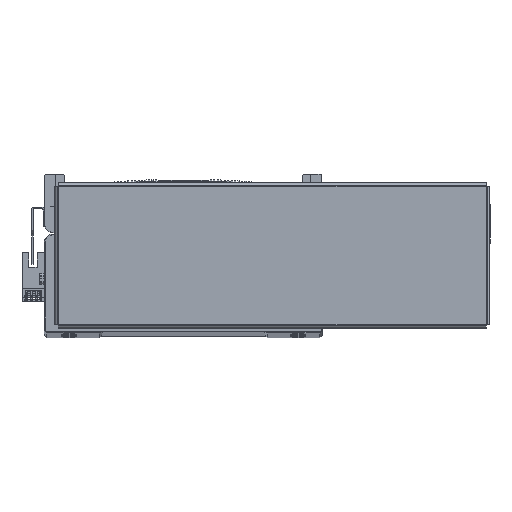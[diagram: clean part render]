
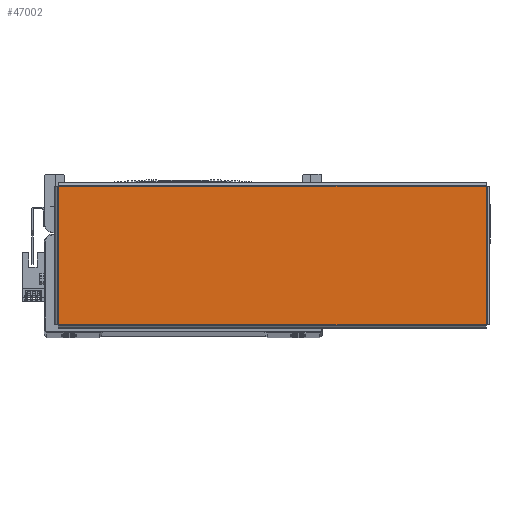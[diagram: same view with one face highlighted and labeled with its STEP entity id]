
A CAD part, top view. The second image highlights one B-rep face of the part: STEP entity #47002.
In plain terms, the highlighted planar face has unit normal (0, 0, 1) as drawn and (0, -1, 0) by its records, which use the part's own axes.
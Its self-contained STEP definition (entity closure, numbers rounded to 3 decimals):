
#2056 = EDGE_CURVE ( 'NONE', #42858, #42877, #17238, .T. ) ;
#2141 = EDGE_CURVE ( 'NONE', #42877, #42893, #17288, .T. ) ;
#2172 = EDGE_CURVE ( 'NONE', #42893, #42817, #17335, .T. ) ;
#2229 = EDGE_CURVE ( 'NONE', #42817, #42858, #17429, .T. ) ;
#13074 = CARTESIAN_POINT ( 'NONE',  ( 130.863, -1.5, -42.263 ) ) ;
#17201 = VECTOR ( 'NONE', #42362, 1000. ) ;
#17238 = LINE ( 'NONE', #42353, #17201 ) ;
#17273 = VECTOR ( 'NONE', #42584, 1000. ) ;
#17288 = LINE ( 'NONE', #42655, #17273 ) ;
#17335 = LINE ( 'NONE', #42774, #17352 ) ;
#17352 = VECTOR ( 'NONE', #42816, 1000. ) ;
#17406 = VECTOR ( 'NONE', #69529, 1000. ) ;
#17429 = LINE ( 'NONE', #69545, #17406 ) ;
#22042 = CARTESIAN_POINT ( 'NONE',  ( 130.863, -1.5, 42.263 ) ) ;
#22059 = CARTESIAN_POINT ( 'NONE',  ( -130.863, -1.5, 42.263 ) ) ;
#22098 = CARTESIAN_POINT ( 'NONE',  ( -130.863, -1.5, -42.263 ) ) ;
#30134 = AXIS2_PLACEMENT_3D ( 'NONE', #67650, #67616, #67604 ) ;
#42353 = CARTESIAN_POINT ( 'NONE',  ( 130.893, -1.5, 42.263 ) ) ;
#42362 = DIRECTION ( 'NONE',  ( -1., 0., 0. ) ) ;
#42584 = DIRECTION ( 'NONE',  ( 0., 0., -1. ) ) ;
#42655 = CARTESIAN_POINT ( 'NONE',  ( -130.863, -1.5, 42.293 ) ) ;
#42774 = CARTESIAN_POINT ( 'NONE',  ( -130.893, -1.5, -42.263 ) ) ;
#42816 = DIRECTION ( 'NONE',  ( 1., 0., 0. ) ) ;
#42817 = VERTEX_POINT ( 'NONE', #13074 ) ;
#42858 = VERTEX_POINT ( 'NONE', #22042 ) ;
#42877 = VERTEX_POINT ( 'NONE', #22059 ) ;
#42893 = VERTEX_POINT ( 'NONE', #22098 ) ;
#47002 = ADVANCED_FACE ( 'NONE', ( #62827 ), #67623, .F. ) ;
#54369 = ORIENTED_EDGE ( 'NONE', *, *, #2229, .T. ) ;
#54451 = ORIENTED_EDGE ( 'NONE', *, *, #2056, .T. ) ;
#54454 = ORIENTED_EDGE ( 'NONE', *, *, #2141, .T. ) ;
#54527 = ORIENTED_EDGE ( 'NONE', *, *, #2172, .T. ) ;
#59344 = EDGE_LOOP ( 'NONE', ( #54369, #54451, #54454, #54527 ) ) ;
#62827 = FACE_OUTER_BOUND ( 'NONE', #59344, .T. ) ;
#67604 = DIRECTION ( 'NONE',  ( 0., 0., 1. ) ) ;
#67616 = DIRECTION ( 'NONE',  ( 0., 1., 0. ) ) ;
#67623 = PLANE ( 'NONE',  #30134 ) ;
#67650 = CARTESIAN_POINT ( 'NONE',  ( 0., -1.5, 0. ) ) ;
#69529 = DIRECTION ( 'NONE',  ( 0., 0., 1. ) ) ;
#69545 = CARTESIAN_POINT ( 'NONE',  ( 130.863, -1.5, -42.293 ) ) ;
